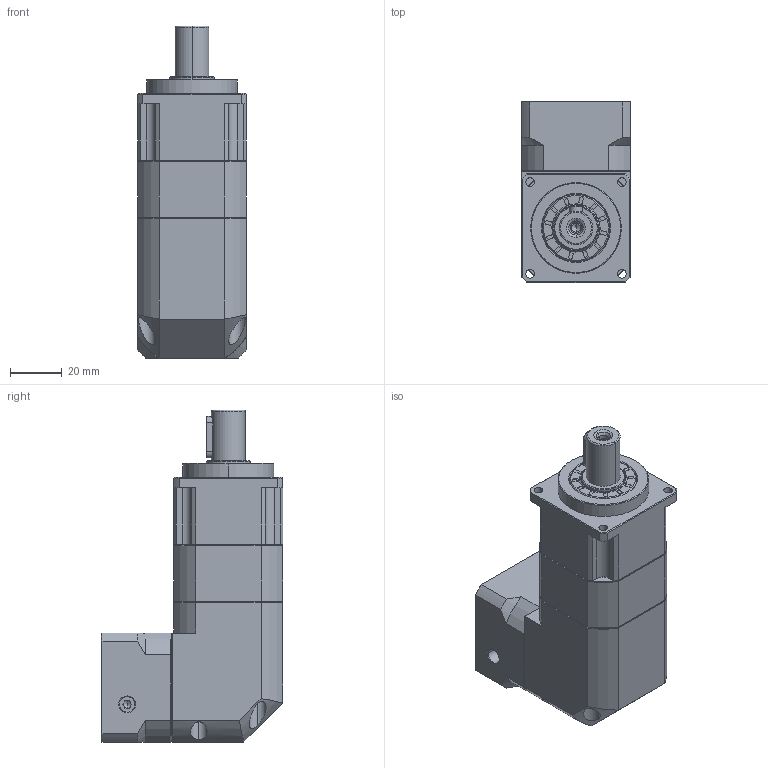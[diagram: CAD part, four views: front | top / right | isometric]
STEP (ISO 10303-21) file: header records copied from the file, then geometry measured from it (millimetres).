
FILE_DESCRIPTION (( 'STEP AP214' ), '1' );
FILE_NAME ('ZPBR042-D13-L2-P1-8-30-45-M3.step', '2024-04-11T05:19:50', ( 'Windows 蚚誧' ), ( 'Organization' ), 'SwSTEP 2.0', 'SolidWorks 2016', '' );
FILE_SCHEMA (( 'AUTOMOTIVE_DESIGN' ));
Length unit declared in the file: millimetre
Products named in the file (1): ZPBR042-D13-L2-P1-8-30-45-M3
Bounding box: 42 x 70 x 128 mm (x, y, z)
Volume: 186572.1 mm3; surface area: 51172.2 mm2
Topology: 7 solids, 16 shells, 1607 faces, 4153 edges, 2653 vertices
Faces by surface type: plane 643, cylinder 354, bspline 352, cone 256, torus 2
Entity records: 89244 total; most frequent: CARTESIAN_POINT 35232, ORIENTED_EDGE 8246, DIRECTION 6310, EDGE_CURVE 4123, VERTEX_POINT 2653, VECTOR 2344, LINE 2344, AXIS2_PLACEMENT_3D 1983
